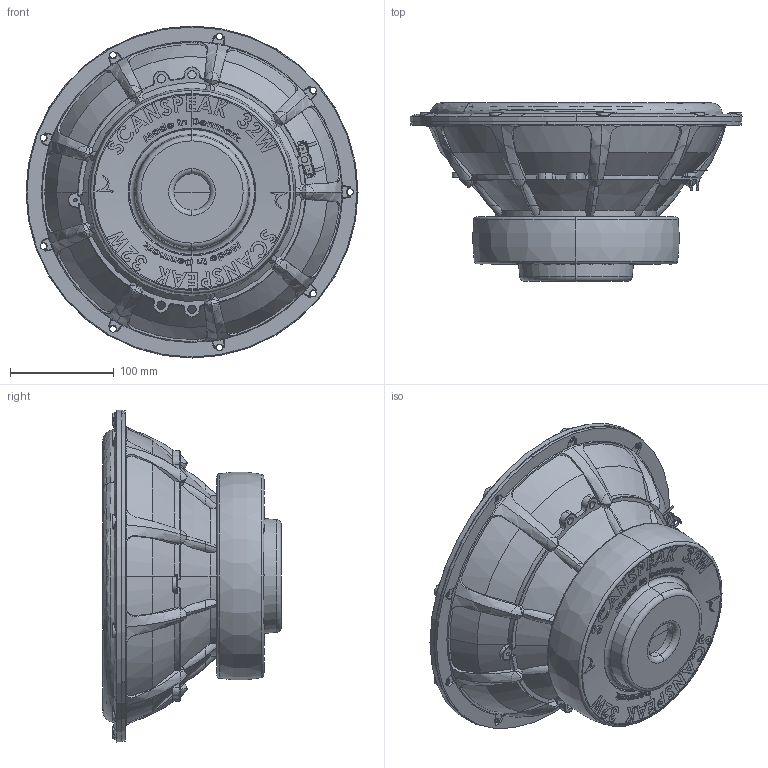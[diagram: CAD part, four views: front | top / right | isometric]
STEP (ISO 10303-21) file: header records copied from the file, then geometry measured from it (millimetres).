
FILE_DESCRIPTION (( 'STEP AP214' ), '1' );
FILE_NAME ('32W-4878T00.STEP', '2020-11-24T11:58:32', ( '' ), ( '' ), 'SwSTEP 2.0', 'SolidWorks 2019', '' );
FILE_SCHEMA (( 'AUTOMOTIVE_DESIGN' ));
Length unit declared in the file: millimetre
Products named in the file (1): 32W-4878T00
Bounding box: 319.88 x 172.17 x 319.88 mm (x, y, z)
Volume: 4964430.7 mm3; surface area: 378947.8 mm2
Topology: 1 solids, 4 shells, 2047 faces, 5564 edges, 3550 vertices
Faces by surface type: plane 619, bspline 587, cylinder 341, cone 304, torus 172, sphere 24
Entity records: 118607 total; most frequent: CARTESIAN_POINT 52502, ORIENTED_EDGE 11008, DIRECTION 6717, EDGE_CURVE 5504, VERTEX_POINT 3532, B_SPLINE_CURVE_WITH_KNOTS 2771, AXIS2_PLACEMENT_3D 2631, EDGE_LOOP 2164
